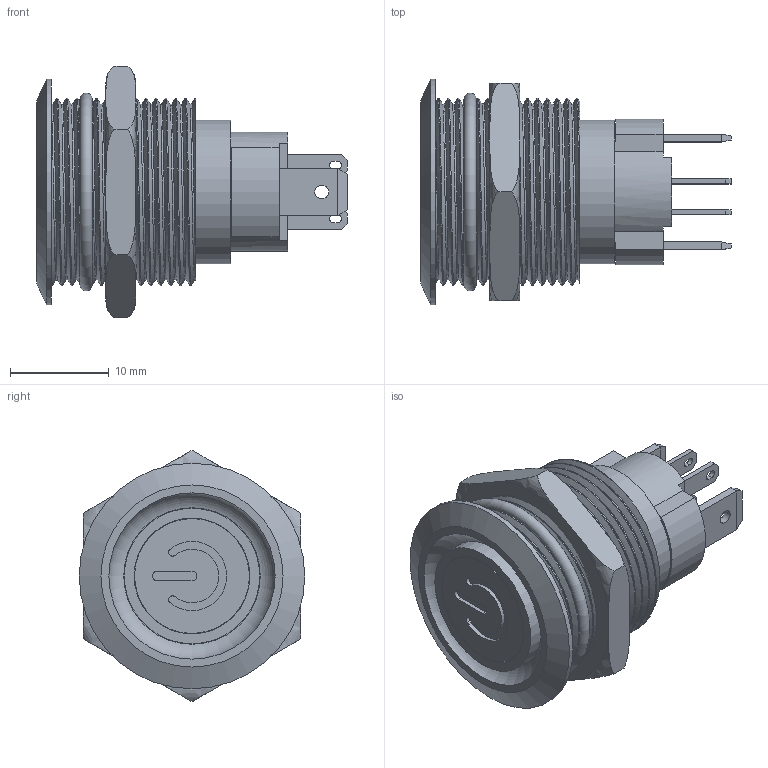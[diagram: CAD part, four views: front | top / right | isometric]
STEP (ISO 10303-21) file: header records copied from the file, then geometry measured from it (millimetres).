
FILE_DESCRIPTION(/* description */ (''),/* implementation_level */ '2;1');
FILE_NAME(/* name */ 'J19-C-271-P.stp',/* time_stamp */ '2022-12-08T16:30:23+08:00',/* author */ (''),/* organization */ (''),/* preprocessor_version */ 'ST-DEVELOPER v11',/* originating_system */ 'SIEMENS UGS NX 6.0',/* authorisation */ '');
FILE_SCHEMA (('CONFIG_CONTROL_DESIGN'));
Length unit declared in the file: millimetre
Products named in the file (1): J19-C-271-P
Bounding box: 31.4 x 22.8 x 25.4 mm (x, y, z)
Volume: 5063.1 mm3; surface area: 7750 mm2
Topology: 13 solids, 13 shells, 531 faces, 1619 edges, 975 vertices
Faces by surface type: plane 298, cylinder 141, sphere 72, torus 15, bspline 4, cone 1
Full cylindrical faces by diameter (mm): 1.4 x2, 9.56 x1, 9.7 x2, 11.6 x1, 11.7 x1, 12.2 x1, 13.6 x1, 13.7 x1, 13.8 x1, 13.9 x1, 14.5 x1, 22.8 x1
Entity records: 23476 total; most frequent: CARTESIAN_POINT 9706, ORIENTED_EDGE 2902, DIRECTION 2775, EDGE_CURVE 1451, VERTEX_POINT 970, LINE 959, VECTOR 959, AXIS2_PLACEMENT_3D 908
